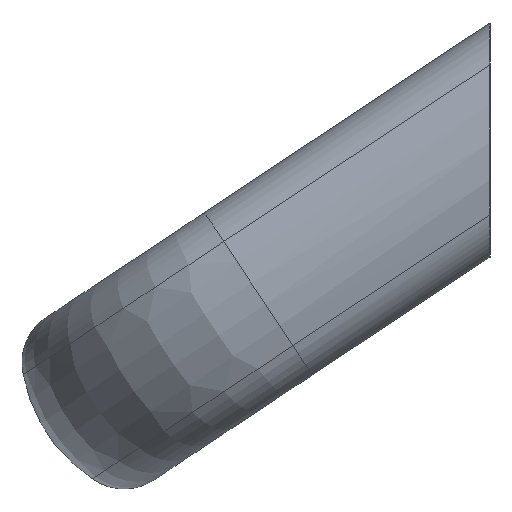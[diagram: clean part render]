
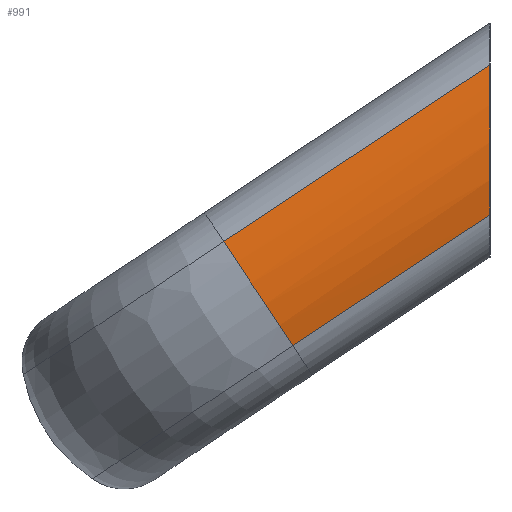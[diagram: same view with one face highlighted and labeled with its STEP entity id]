
A CAD part, left-side view. The second image highlights one B-rep face of the part: STEP entity #991.
In plain terms, the highlighted cylindrical face has radius 16.199 mm (diameter 32.399 mm), a partial arc.
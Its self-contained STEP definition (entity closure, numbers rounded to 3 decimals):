
#62 = EDGE_LOOP ( 'NONE', ( #990, #1019, #1017, #73 ) ) ;
#73 = ORIENTED_EDGE ( 'NONE', *, *, #974, .F. ) ;
#117 = LINE ( 'NONE', #183, #185 ) ;
#120 = CARTESIAN_POINT ( 'NONE',  ( -61.179, 27.294, -8.915 ) ) ;
#128 = CARTESIAN_POINT ( 'NONE',  ( -46.301, 23.751, -14.255 ) ) ;
#150 = CARTESIAN_POINT ( 'NONE',  ( -61.179, 0., 9.19 ) ) ;
#183 = CARTESIAN_POINT ( 'NONE',  ( -61.179, -12.706, 17.618 ) ) ;
#185 = VECTOR ( 'NONE', #194, 1000. ) ;
#194 = DIRECTION ( 'NONE',  ( 0., 0.833, -0.553 ) ) ;
#237 = DIRECTION ( 'NONE',  ( -0.553, -0.461, -0.694 ) ) ;
#238 = DIRECTION ( 'NONE',  ( 0., 0.833, -0.553 ) ) ;
#314 = CARTESIAN_POINT ( 'NONE',  ( -61.179, 0., -6.19 ) ) ;
#361 = CARTESIAN_POINT ( 'NONE',  ( -61.179, 0., 9.19 ) ) ;
#362 = CARTESIAN_POINT ( 'NONE',  ( -62.966, 0., 4.211 ) ) ;
#363 = CARTESIAN_POINT ( 'NONE',  ( -62.966, 0., -1.211 ) ) ;
#364 = CARTESIAN_POINT ( 'NONE',  ( -61.179, 0., -6.19 ) ) ;
#368 =( BOUNDED_CURVE ( )  B_SPLINE_CURVE ( 3, ( #364, #363, #362, #361 ),
 .UNSPECIFIED., .F., .F. ) 
 B_SPLINE_CURVE_WITH_KNOTS ( ( 4, 4 ),
 ( 1.164, 1.978 ),
 .UNSPECIFIED. ) 
 CURVE ( )  GEOMETRIC_REPRESENTATION_ITEM ( )  RATIONAL_B_SPLINE_CURVE ( ( 1., 0.946, 0.946, 1. ) ) 
 REPRESENTATION_ITEM ( '' )  );
#548 = CARTESIAN_POINT ( 'NONE',  ( -61.179, 20.209, -19.595 ) ) ;
#560 = CIRCLE ( 'NONE', #561, 16.199 ) ;
#561 = AXIS2_PLACEMENT_3D ( 'NONE', #128, #238, #237 ) ;
#573 = AXIS2_PLACEMENT_3D ( 'NONE', #613, #574, #614 ) ;
#574 = DIRECTION ( 'NONE',  ( 0., 0.833, -0.553 ) ) ;
#580 = CYLINDRICAL_SURFACE ( 'NONE', #573, 16.199 ) ;
#583 = FACE_OUTER_BOUND ( 'NONE', #62, .T. ) ;
#599 = DIRECTION ( 'NONE',  ( 0., 0.833, -0.553 ) ) ;
#600 = VECTOR ( 'NONE', #599, 1000. ) ;
#601 = CARTESIAN_POINT ( 'NONE',  ( -61.179, -19.791, 6.938 ) ) ;
#602 = LINE ( 'NONE', #601, #600 ) ;
#613 = CARTESIAN_POINT ( 'NONE',  ( -46.301, -16.249, 12.278 ) ) ;
#614 = DIRECTION ( 'NONE',  ( 0., 0.553, 0.833 ) ) ;
#745 = VERTEX_POINT ( 'NONE', #120 ) ;
#747 = EDGE_CURVE ( 'NONE', #767, #745, #117, .T. ) ;
#767 = VERTEX_POINT ( 'NONE', #150 ) ;
#872 = VERTEX_POINT ( 'NONE', #314 ) ;
#876 = EDGE_CURVE ( 'NONE', #872, #767, #368, .T. ) ;
#970 = VERTEX_POINT ( 'NONE', #548 ) ;
#974 = EDGE_CURVE ( 'NONE', #970, #745, #560, .T. ) ;
#990 = ORIENTED_EDGE ( 'NONE', *, *, #1011, .F. ) ;
#991 = ADVANCED_FACE ( 'NONE', ( #583 ), #580, .T. ) ;
#1011 = EDGE_CURVE ( 'NONE', #872, #970, #602, .T. ) ;
#1017 = ORIENTED_EDGE ( 'NONE', *, *, #747, .T. ) ;
#1019 = ORIENTED_EDGE ( 'NONE', *, *, #876, .T. ) ;
